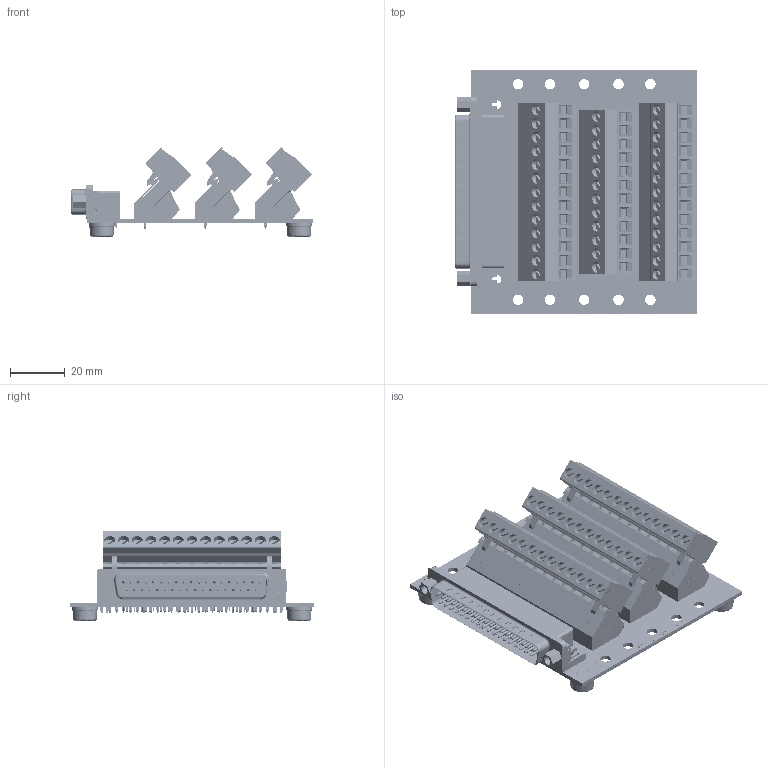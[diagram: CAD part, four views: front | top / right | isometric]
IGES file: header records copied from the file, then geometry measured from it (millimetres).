
Start section: SolidWorks IGES file using analytic representation for surfaces
Global section: file name: D:\Documents\Winford Engineering Jobs\BRKLD37\BRKLD37M\brkld37m-rw-ft_rev_a.igs; native system: SolidWorks 2017; preprocessor: SolidWorks 2017; author: mudhf; date: 210308.233748; units: inch
Bounding box: 88.58 x 88.9 x 32.61 mm (x, y, z)
Surface area: 64693.9 mm2 (no closed solid volume)
Topology: 0 solids, 0 shells, 13349 faces, 108103 edges, 107895 vertices
Faces by surface type: bspline 10567, revolution 2782
